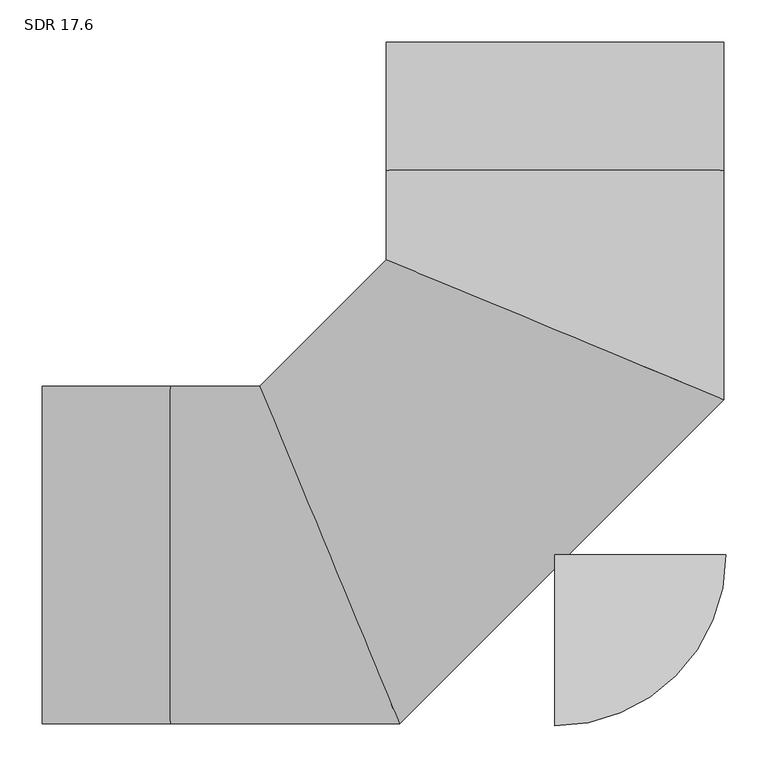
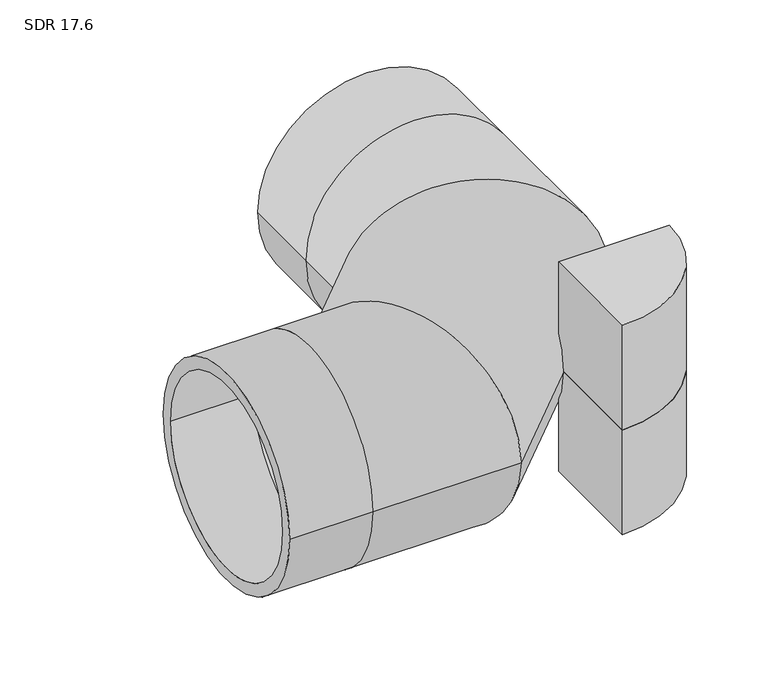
"""IFC4 building model written with IfcOpenShell, lengths in millimetres: pipe fitting geometry, Aquatherm - Elbow Blue BW Segmented : SDR 17.6."""

from ifc_helpers import new_model, si_unit, point, frame, origin, origin_with_axes, origin_2d, place, context, project, spatial, polyline, circle_curve, ellipse_curve, trimmed, segment, composite_curve, outline, extrude, source, transform, mapped, element, save
from ifc_brep_helpers import plane_surface, cylinder_surface, revolved_surface, advanced_brep


def sdr_17_6_9b1586aa(model_context):
    return source(origin(), model_context, "Body", "SolidModel", [
        extrude(outline(composite_curve([segment(polyline([(0.0, -203.2), (0.0, 0.0), (203.2, 0.0)]), True, "CONTINUOUS"), segment(trimmed(circle_curve(origin_2d(), 203.2), [point((203.2, 0.0))], [point((0.0, -203.2))], False, "CARTESIAN"), True, "CONTINUOUS")], self_intersect=False)), frame((0.0, 0.0, -203.2), z_axis=(0.0, 0.0, 1.0), x_axis=(1.0, 0.0, 0.0)), (0.0, 0.0, 1.0), 203.2),
        extrude(outline(composite_curve([segment(trimmed(circle_curve(origin_2d(), 203.2), [point((203.2, 0.0))], [point((0.0, -203.2))], False, "CARTESIAN"), True, "CONTINUOUS"), segment(polyline([(0.0, -203.2), (0.0, 0.0), (203.2, 0.0)]), True, "CONTINUOUS")], self_intersect=False)), origin_with_axes(), (0.0, 0.0, 1.0), 203.2),
        advanced_brep(
        [(-609.6, -200.66, 0.0), (-609.6, 200.66, 0.0), (-609.6, -177.8597514, 0.0), (-609.6, 177.8597514, 0.0), (200.66, 609.6, 0.0), (-200.66, 609.6, 0.0), (177.8597514, 609.6, 0.0), (-177.8597514, 609.6, 0.0), (-457.2, -200.66, 0.0), (-457.2, 200.66, 0.0), (-457.2, -177.8597514, 0.0), (-457.2, 177.8597514, 0.0), (-184.7054659, -200.66, 0.0), (-350.9376527, 200.66, 0.0), (-194.149638, -177.8597514, 0.0), (-341.4934805, 177.8597514, 0.0), (200.66, 184.7054659, 0.0), (-200.66, 350.9376527, 0.0), (177.8597514, 194.149638, 0.0), (-177.8597514, 341.4934805, 0.0), (-200.66, 457.2, 0.0), (200.66, 457.2, 0.0), (-177.8597514, 457.2, 0.0), (177.8597514, 457.2, 0.0)],
        [
            (0, 1, circle_curve(frame((-609.6, 0.0, 0.0), z_axis=(-1.0, 0.0, 0.0), x_axis=(0.0, 1.0, 0.0)), 200.66)),
            (1, 0, circle_curve(frame((-609.6, 0.0, 0.0), z_axis=(-1.0, 0.0, 0.0), x_axis=(0.0, 1.0, 0.0)), 200.66)),
            (2, 3, circle_curve(frame((-609.6, 0.0, 0.0), z_axis=(1.0, 0.0, 0.0), x_axis=(0.0, 1.0, 0.0)), 177.8597514)),
            (3, 2, circle_curve(frame((-609.6, 0.0, 0.0), z_axis=(1.0, 0.0, 0.0), x_axis=(0.0, 1.0, 0.0)), 177.8597514)),
            (4, 5, circle_curve(frame((0.0, 609.6, 0.0), z_axis=(0.0, 1.0, 0.0), x_axis=(-1.0, 0.0, 0.0)), 200.66)),
            (5, 4, circle_curve(frame((0.0, 609.6, 0.0), z_axis=(0.0, 1.0, 0.0), x_axis=(-1.0, 0.0, 0.0)), 200.66)),
            (6, 7, circle_curve(frame((0.0, 609.6, 0.0), z_axis=(0.0, -1.0, 0.0), x_axis=(-1.0, 0.0, 0.0)), 177.8597514)),
            (7, 6, circle_curve(frame((0.0, 609.6, 0.0), z_axis=(0.0, -1.0, 0.0), x_axis=(-1.0, 0.0, 0.0)), 177.8597514)),
            (0, 8),
            (8, 9, circle_curve(frame((-457.2, 0.0, 0.0), z_axis=(-1.0, 0.0, 0.0), x_axis=(0.0, 1.0, 0.0)), 200.66)),
            (9, 1),
            (9, 8, circle_curve(frame((-457.2, 0.0, 0.0), z_axis=(-1.0, 0.0, 0.0), x_axis=(0.0, 1.0, 0.0)), 200.66)),
            (2, 10),
            (10, 11, circle_curve(frame((-457.2, 0.0, 0.0), z_axis=(1.0, 0.0, 0.0), x_axis=(0.0, 1.0, 0.0)), 177.8597514)),
            (11, 3),
            (11, 10, circle_curve(frame((-457.2, 0.0, 0.0), z_axis=(1.0, 0.0, 0.0), x_axis=(0.0, 1.0, 0.0)), 177.8597514)),
            (8, 12),
            (12, 13, ellipse_curve(frame((-267.8215593, 0.0, 0.0), z_axis=(-0.9238795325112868, -0.3826834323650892, 0.0), x_axis=(-0.3826834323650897, 0.9238795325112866, 0.0)), 217.1928189, 200.66)),
            (13, 9),
            (13, 12, ellipse_curve(frame((-267.8215593, 0.0, 0.0), z_axis=(-0.9238795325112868, -0.3826834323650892, 0.0), x_axis=(-0.3826834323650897, 0.9238795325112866, 0.0)), 217.1928189, 200.66)),
            (10, 14),
            (14, 15, ellipse_curve(frame((-267.8215593, 0.0, 0.0), z_axis=(0.9238795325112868, 0.3826834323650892, 0.0), x_axis=(0.3826834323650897, -0.9238795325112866, 0.0)), 192.5140077, 177.8597514)),
            (15, 11),
            (15, 14, ellipse_curve(frame((-267.8215593, 0.0, 0.0), z_axis=(0.9238795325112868, 0.3826834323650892, 0.0), x_axis=(0.3826834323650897, -0.9238795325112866, 0.0)), 192.5140077, 177.8597514)),
            (12, 16),
            (16, 17, ellipse_curve(frame((0.0, 267.8215593, 0.0), z_axis=(-0.3826834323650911, -0.9238795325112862, 0.0), x_axis=(-0.9238795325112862, 0.382683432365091, 0.0)), 217.1928189, 200.66)),
            (17, 13),
            (17, 16, ellipse_curve(frame((0.0, 267.8215593, 0.0), z_axis=(-0.3826834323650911, -0.9238795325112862, 0.0), x_axis=(-0.9238795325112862, 0.382683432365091, 0.0)), 217.1928189, 200.66)),
            (14, 18),
            (18, 19, ellipse_curve(frame((0.0, 267.8215593, 0.0), z_axis=(0.3826834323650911, 0.9238795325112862, 0.0), x_axis=(0.9238795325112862, -0.382683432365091, 0.0)), 192.5140077, 177.8597514)),
            (19, 15),
            (19, 18, ellipse_curve(frame((0.0, 267.8215593, 0.0), z_axis=(0.3826834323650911, 0.9238795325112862, 0.0), x_axis=(0.9238795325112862, -0.382683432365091, 0.0)), 192.5140077, 177.8597514)),
            (20, 21, circle_curve(frame((0.0, 457.2, 0.0), z_axis=(0.0, 1.0, 0.0), x_axis=(-1.0, 0.0, 0.0)), 200.66)),
            (21, 4),
            (5, 20),
            (21, 20, circle_curve(frame((0.0, 457.2, 0.0), z_axis=(0.0, 1.0, 0.0), x_axis=(-1.0, 0.0, 0.0)), 200.66)),
            (22, 23, circle_curve(frame((0.0, 457.2, 0.0), z_axis=(0.0, -1.0, 0.0), x_axis=(-1.0, 0.0, 0.0)), 177.8597514)),
            (23, 6),
            (7, 22),
            (23, 22, circle_curve(frame((0.0, 457.2, 0.0), z_axis=(0.0, -1.0, 0.0), x_axis=(-1.0, 0.0, 0.0)), 177.8597514)),
            (16, 21),
            (20, 17),
            (18, 23),
            (22, 19),
        ],
        [
            plane_surface(frame((-609.6, 0.0, 0.0), z_axis=(-1.0, 0.0, 0.0), x_axis=(0.0, 0.0, 1.0))),
            plane_surface(frame((0.0, 609.6, 0.0), z_axis=(0.0, 1.0, 0.0), x_axis=(0.0, 0.0, 1.0))),
            cylinder_surface(frame((-609.6, 0.0, 0.0), z_axis=(-1.0, 0.0, 0.0), x_axis=(0.0, 1.0, 0.0)), 200.66),
            revolved_surface(polyline([(-457.2, 177.8597514, 0.0), (-609.6, 177.8597514, 0.0)]), (-609.6, 0.0, 0.0), (1.0, 0.0, 0.0)),
            cylinder_surface(frame((-457.2, 0.0, 0.0), z_axis=(-1.0, 0.0, 0.0), x_axis=(0.0, 1.0, 0.0)), 200.66),
            revolved_surface(polyline([(-194.14963800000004, 177.8597514, 0.0), (-457.2, 177.8597514, 0.0)]), (-457.2, 0.0, 0.0), (1.0, 0.0, 0.0)),
            cylinder_surface(frame((-267.8215593, 0.0, 0.0), z_axis=(-0.7071067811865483, -0.7071067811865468, 0.0), x_axis=(-0.7071067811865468, 0.7071067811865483, 0.0)), 200.66),
            revolved_surface(polyline([(-73.6719212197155, 445.6813107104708, 0.0), (-445.68131071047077, 73.67192121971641, 0.0)]), (-267.8215593, 0.0, 0.0), (0.7071067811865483, 0.7071067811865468, 0.0)),
            cylinder_surface(frame((0.0, 457.2, 0.0), z_axis=(0.0, -1.0, 0.0), x_axis=(-1.0, 0.0, 0.0)), 200.66),
            revolved_surface(polyline([(-177.8597514, 609.6, 0.0), (-177.8597514, 457.2, 0.0)]), (0.0, 457.2, 0.0), (0.0, 1.0, 0.0)),
            cylinder_surface(frame((0.0, 267.8215593, 0.0), z_axis=(0.0, -1.0, 0.0), x_axis=(-1.0, 0.0, 0.0)), 200.66),
            revolved_surface(polyline([(-177.8597514, 457.2, 0.0), (-177.8597514, 194.149638, 0.0)]), (0.0, 267.8215593, 0.0), (0.0, 1.0, 0.0)),
        ],
        [
            (0, [[1, 2], [3, 4]]),
            (1, [[5, 6], [7, 8]]),
            (2, [[-1, 9, 10, 11]]),
            (2, [[-2, -11, 12, -9]]),
            (3, [[-3, 13, 14, 15]]),
            (3, [[-4, -15, 16, -13]]),
            (4, [[-10, 17, 18, 19]]),
            (4, [[-12, -19, 20, -17]]),
            (5, [[-14, 21, 22, 23]]),
            (5, [[-16, -23, 24, -21]]),
            (6, [[-18, 25, 26, 27]]),
            (6, [[-20, -27, 28, -25]]),
            (7, [[-22, 29, 30, 31]]),
            (7, [[-24, -31, 32, -29]]),
            (8, [[33, 34, -6, 35]]),
            (8, [[36, -35, -5, -34]]),
            (9, [[37, 38, -8, 39]]),
            (9, [[40, -39, -7, -38]]),
            (10, [[-26, 41, -33, 42]]),
            (10, [[-28, -42, -36, -41]]),
            (11, [[-30, 43, -37, 44]]),
            (11, [[-32, -44, -40, -43]]),
        ],
    ),
    ])


if __name__ == "__main__":
    model = new_model("IFC4")
    model_context = context("Model", 3, world=origin())
    ifc_project = project(units=[si_unit("LENGTHUNIT", "METRE", prefix="MILLI")], contexts=[model_context])
    site = spatial("IfcSite", under=ifc_project)
    building = spatial("IfcBuilding", under=site)
    placement = place(None, origin())
    sdr_17_6_shape = sdr_17_6_9b1586aa(model_context)
    element("IfcPipeFitting", 1, ObjectType="Aquatherm - Elbow Blue BW Segmented : SDR 17.6", at=placement, inside=building, context=model_context, shape_type="MappedRepresentation", body=[
        mapped(sdr_17_6_shape, transform((0.0, 0.0, 0.0), x_axis=(1.0, 0.0, 0.0), y_axis=(0.0, 1.0, 0.0), z_axis=(0.0, 0.0, 1.0))),
    ])
    save(model, "model.ifc")
